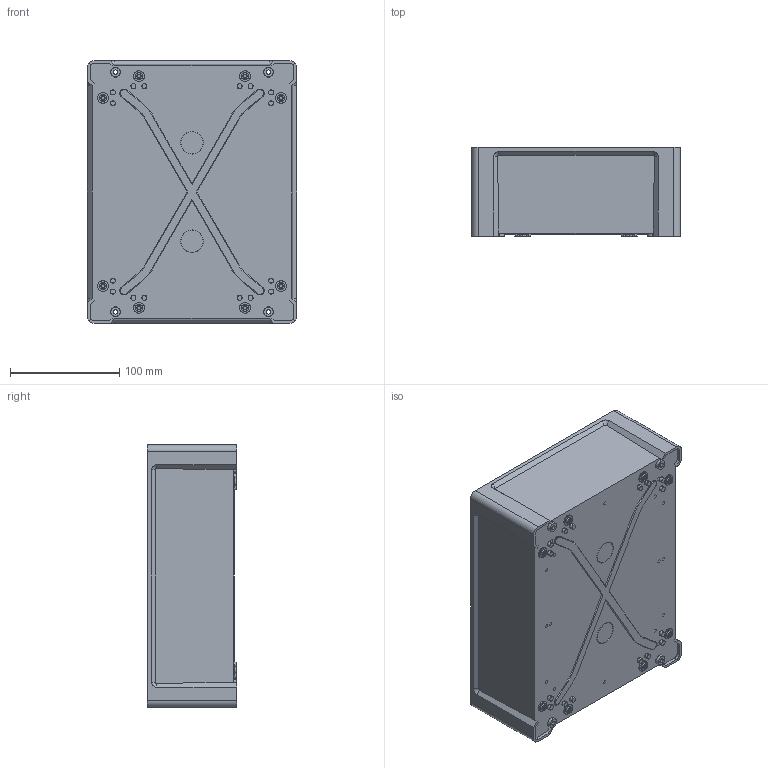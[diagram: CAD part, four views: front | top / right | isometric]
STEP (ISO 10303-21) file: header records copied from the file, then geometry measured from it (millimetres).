
FILE_DESCRIPTION (( 'STEP AP214' ), '1' );
FILE_NAME ('FIBOX TEMPO 2419 Base.STEP', '2006-11-28T14:51:02', ( 'JuhaniH' ), ( 'Fibox Oy' ), 'SwSTEP 2.0', 'SolidWorks 2006233', '' );
FILE_SCHEMA (( 'AUTOMOTIVE_DESIGN' ));
Length unit declared in the file: millimetre
Products named in the file (1): FIBOX TEMPO 2419 Base
Bounding box: 191 x 81.4 x 240 mm (x, y, z)
Volume: 430744.1 mm3; surface area: 242777.8 mm2
Topology: 1 solids, 1 shells, 696 faces, 1654 edges, 1096 vertices
Faces by surface type: plane 330, cone 318, cylinder 48
Entity records: 20645 total; most frequent: CARTESIAN_POINT 3775, DIRECTION 3680, ORIENTED_EDGE 3308, EDGE_CURVE 1654, AXIS2_PLACEMENT_3D 1409, VERTEX_POINT 1096, VECTOR 862, LINE 862
